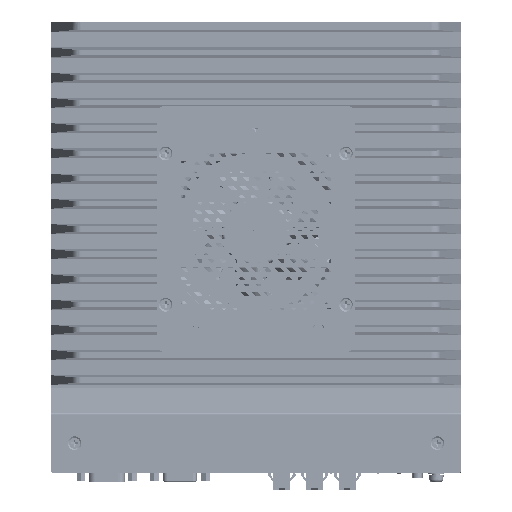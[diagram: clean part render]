
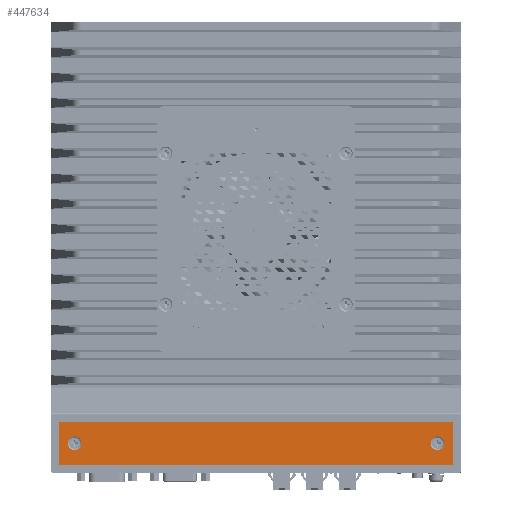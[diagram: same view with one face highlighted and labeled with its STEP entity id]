
A CAD part, top view. The second image highlights one B-rep face of the part: STEP entity #447634.
In plain terms, the highlighted planar face has unit normal (0, 0, 1).
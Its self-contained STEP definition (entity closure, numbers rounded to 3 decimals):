
#111286=DIRECTION('',(0.,1.,0.));
#111287=VECTOR('',#111286,21.);
#111288=CARTESIAN_POINT('',(96.,-106.,32.));
#111289=LINE('',#111288,#111287);
#111290=DIRECTION('',(1.,0.,0.));
#111291=VECTOR('',#111290,192.);
#111292=CARTESIAN_POINT('',(-96.,-106.,32.));
#111293=LINE('',#111292,#111291);
#111294=DIRECTION('',(0.,-1.,0.));
#111295=VECTOR('',#111294,21.);
#111296=CARTESIAN_POINT('',(-96.,-85.,32.));
#111297=LINE('',#111296,#111295);
#111298=DIRECTION('',(-1.,0.,0.));
#111299=VECTOR('',#111298,192.);
#111300=CARTESIAN_POINT('',(96.,-85.,32.));
#111301=LINE('',#111300,#111299);
#111311=CARTESIAN_POINT('',(88.5,-95.5,32.));
#111312=DIRECTION('',(0.,0.,-1.));
#111313=DIRECTION('',(-1.,0.,0.));
#111314=AXIS2_PLACEMENT_3D('',#111311,#111312,#111313);
#111333=CARTESIAN_POINT('',(88.5,-95.5,32.));
#111334=DIRECTION('',(0.,0.,-1.));
#111335=DIRECTION('',(1.,0.,0.));
#111336=AXIS2_PLACEMENT_3D('',#111333,#111334,#111335);
#111681=CARTESIAN_POINT('',(-88.5,-95.5,32.));
#111682=DIRECTION('',(0.,0.,-1.));
#111683=DIRECTION('',(-1.,0.,0.));
#111684=AXIS2_PLACEMENT_3D('',#111681,#111682,#111683);
#111703=CARTESIAN_POINT('',(-88.5,-95.5,32.));
#111704=DIRECTION('',(0.,0.,-1.));
#111705=DIRECTION('',(1.,0.,0.));
#111706=AXIS2_PLACEMENT_3D('',#111703,#111704,#111705);
#212689=CARTESIAN_POINT('',(-96.,-106.,32.));
#212690=CARTESIAN_POINT('',(96.,-106.,32.));
#212691=VERTEX_POINT('',#212689);
#212692=VERTEX_POINT('',#212690);
#212693=CARTESIAN_POINT('',(-96.,-85.,32.));
#212694=VERTEX_POINT('',#212693);
#212695=CARTESIAN_POINT('',(96.,-85.,32.));
#212696=VERTEX_POINT('',#212695);
#252567=CARTESIAN_POINT('',(-85.15,-95.5,32.));
#252568=CARTESIAN_POINT('',(-91.85,-95.5,32.));
#252569=VERTEX_POINT('',#252567);
#252570=VERTEX_POINT('',#252568);
#252571=CARTESIAN_POINT('',(91.85,-95.5,32.));
#252572=CARTESIAN_POINT('',(85.15,-95.5,32.));
#252573=VERTEX_POINT('',#252571);
#252574=VERTEX_POINT('',#252572);
#447611=CARTESIAN_POINT('',(0.,-95.5,32.));
#447612=DIRECTION('',(0.,0.,1.));
#447613=DIRECTION('',(1.,0.,0.));
#447614=AXIS2_PLACEMENT_3D('',#447611,#447612,#447613);
#447615=PLANE('',#447614);
#447616=ORIENTED_EDGE('',*,*,#447605,.F.);
#447617=ORIENTED_EDGE('',*,*,#447563,.F.);
#447618=ORIENTED_EDGE('',*,*,#447578,.F.);
#447619=ORIENTED_EDGE('',*,*,#447592,.F.);
#447620=EDGE_LOOP('',(#447616,#447617,#447618,#447619));
#447621=FACE_OUTER_BOUND('',#447620,.F.);
#447623=ORIENTED_EDGE('',*,*,#447622,.F.);
#447625=ORIENTED_EDGE('',*,*,#447624,.F.);
#447626=EDGE_LOOP('',(#447623,#447625));
#447627=FACE_BOUND('',#447626,.F.);
#447629=ORIENTED_EDGE('',*,*,#447628,.F.);
#447631=ORIENTED_EDGE('',*,*,#447630,.F.);
#447632=EDGE_LOOP('',(#447629,#447631));
#447633=FACE_BOUND('',#447632,.F.);
#447634=ADVANCED_FACE('',(#447621,#447627,#447633),#447615,.T.);
#111315=CIRCLE('',#111314,3.35);
#111337=CIRCLE('',#111336,3.35);
#111685=CIRCLE('',#111684,3.35);
#111707=CIRCLE('',#111706,3.35);
#447563=EDGE_CURVE('',#212691,#212692,#111293,.T.);
#447578=EDGE_CURVE('',#212694,#212691,#111297,.T.);
#447592=EDGE_CURVE('',#212696,#212694,#111301,.T.);
#447605=EDGE_CURVE('',#212692,#212696,#111289,.T.);
#447622=EDGE_CURVE('',#252570,#252569,#111685,.T.);
#447624=EDGE_CURVE('',#252569,#252570,#111707,.T.);
#447628=EDGE_CURVE('',#252574,#252573,#111315,.T.);
#447630=EDGE_CURVE('',#252573,#252574,#111337,.T.);
